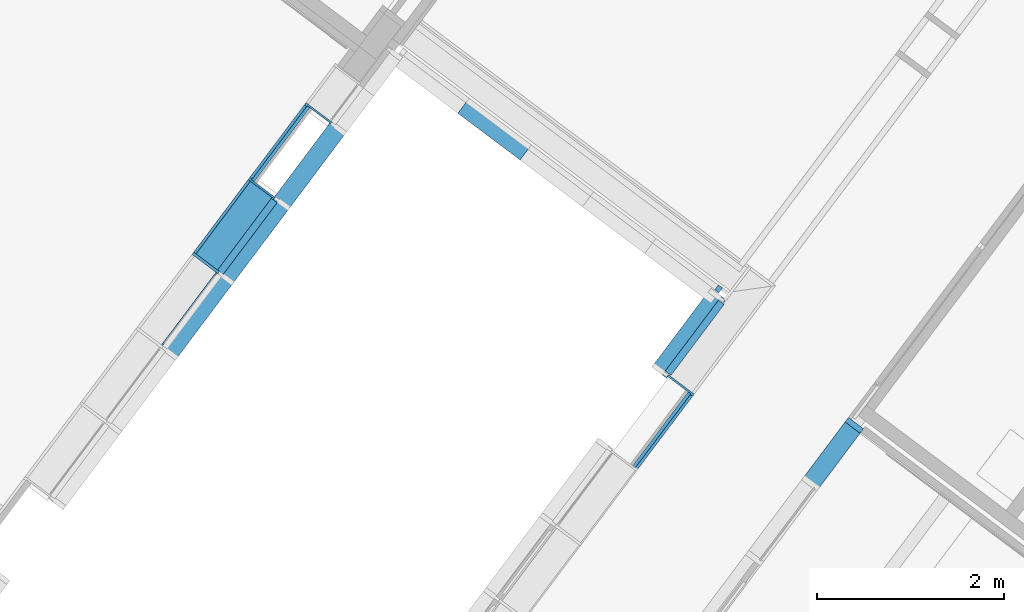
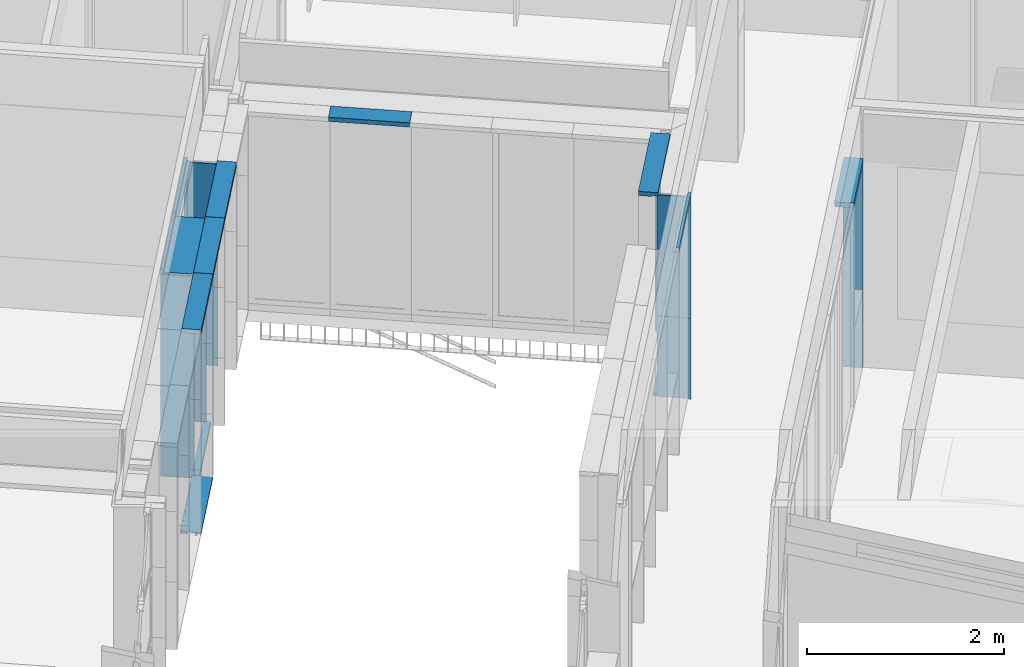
# One storey, part 53 of 243: 19 members, 6 elements without a shape of their own.
"""IFC2X3 building model written with IfcOpenShell, lengths in metres."""

from ifc_helpers import new_model, entity, si_unit, converted_unit, derived_unit, direction, frame, frame_2d, origin, origin_2d_with_axis, place, context, subcontext, project, spatial, polyline, circle_curve, parameter, trimmed, segment, composite_curve, rectangle, outline, extrude, source, transform, mapped, material, type_object, type_shapes, element, aggregate, save


model = new_model("IFC2X3")

# Units and contexts
model_context = context("Model", 3, precision=1e-05, world=origin(), true_north=direction((6.123031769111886e-17, 1.0)))
body_context = subcontext(model_context, "Body", "Model", "MODEL_VIEW")
ifc_project = project(units=[si_unit("LENGTHUNIT", "METRE"), si_unit("AREAUNIT", "SQUARE_METRE"), si_unit("VOLUMEUNIT", "CUBIC_METRE"), converted_unit("PLANEANGLEUNIT", "DEGREE", entity("IfcRatioMeasure", 0.017453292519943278), si_unit("PLANEANGLEUNIT", "RADIAN"), dimensions=[0, 0, 0, 0, 0, 0, 0]), si_unit("MASSUNIT", "GRAM", prefix="KILO"), derived_unit("MASSDENSITYUNIT", [(si_unit("MASSUNIT", "GRAM", prefix="KILO"), 1), (si_unit("LENGTHUNIT", "METRE"), -3)]), derived_unit("IONCONCENTRATIONUNIT", [(si_unit("MASSUNIT", "GRAM", prefix="KILO"), 1), (si_unit("LENGTHUNIT", "METRE"), -3)]), derived_unit("MOMENTOFINERTIAUNIT", [(si_unit("LENGTHUNIT", "METRE"), 4)]), si_unit("TIMEUNIT", "SECOND"), si_unit("FREQUENCYUNIT", "HERTZ"), si_unit("THERMODYNAMICTEMPERATUREUNIT", "DEGREE_CELSIUS"), derived_unit("THERMALTRANSMITTANCEUNIT", [(si_unit("MASSUNIT", "GRAM", prefix="KILO"), 1), (si_unit("THERMODYNAMICTEMPERATUREUNIT", "KELVIN"), -1), (si_unit("TIMEUNIT", "SECOND"), -3)]), derived_unit("THERMALCONDUCTANCEUNIT", [(si_unit("MASSUNIT", "GRAM", prefix="KILO"), 1), (si_unit("THERMODYNAMICTEMPERATUREUNIT", "KELVIN"), -1), (si_unit("TIMEUNIT", "SECOND"), -3), (si_unit("LENGTHUNIT", "METRE"), 1)]), derived_unit("VOLUMETRICFLOWRATEUNIT", [(si_unit("LENGTHUNIT", "METRE"), 3), (si_unit("TIMEUNIT", "SECOND"), -1)]), derived_unit("MASSFLOWRATEUNIT", [(si_unit("MASSUNIT", "GRAM", prefix="KILO"), 1), (si_unit("TIMEUNIT", "SECOND"), -1)]), derived_unit("ROTATIONALFREQUENCYUNIT", [(si_unit("TIMEUNIT", "SECOND"), -1)]), si_unit("ELECTRICCURRENTUNIT", "AMPERE"), si_unit("ELECTRICVOLTAGEUNIT", "VOLT"), si_unit("POWERUNIT", "WATT"), si_unit("FORCEUNIT", "NEWTON", prefix="KILO"), si_unit("ILLUMINANCEUNIT", "LUX"), si_unit("LUMINOUSFLUXUNIT", "LUMEN"), si_unit("LUMINOUSINTENSITYUNIT", "CANDELA"), derived_unit("USERDEFINED", [(si_unit("MASSUNIT", "GRAM", prefix="KILO"), -1), (si_unit("LENGTHUNIT", "METRE"), -2), (si_unit("TIMEUNIT", "SECOND"), 3), (si_unit("LUMINOUSFLUXUNIT", "LUMEN"), 1)]), derived_unit("USERDEFINED", [(si_unit("MASSUNIT", "GRAM", prefix="KILO"), 1), (si_unit("TIMEUNIT", "SECOND"), -3), (si_unit("LENGTHUNIT", "METRE"), 3), (si_unit("ELECTRICCURRENTUNIT", "AMPERE"), -2)]), derived_unit("SOUNDPOWERUNIT", [(si_unit("MASSUNIT", "GRAM", prefix="KILO"), 1), (si_unit("TIMEUNIT", "SECOND"), -3), (si_unit("LENGTHUNIT", "METRE"), 2)]), derived_unit("SOUNDPRESSUREUNIT", [(si_unit("MASSUNIT", "GRAM", prefix="KILO"), 1), (si_unit("LENGTHUNIT", "METRE"), -1), (si_unit("TIMEUNIT", "SECOND"), -2)]), derived_unit("LINEARVELOCITYUNIT", [(si_unit("LENGTHUNIT", "METRE"), 1), (si_unit("TIMEUNIT", "SECOND"), -1)]), si_unit("PRESSUREUNIT", "PASCAL"), derived_unit("USERDEFINED", [(si_unit("MASSUNIT", "GRAM", prefix="KILO"), 1), (si_unit("LENGTHUNIT", "METRE"), -2), (si_unit("TIMEUNIT", "SECOND"), -2)]), derived_unit("LINEARFORCEUNIT", [(si_unit("MASSUNIT", "GRAM", prefix="KILO"), 1), (si_unit("TIMEUNIT", "SECOND"), -2)]), derived_unit("PLANARFORCEUNIT", [(si_unit("MASSUNIT", "GRAM", prefix="KILO"), 1), (si_unit("LENGTHUNIT", "METRE"), -1), (si_unit("TIMEUNIT", "SECOND"), -2)]), derived_unit("SPECIFICHEATCAPACITYUNIT", [(si_unit("THERMODYNAMICTEMPERATUREUNIT", "KELVIN"), -1), (si_unit("LENGTHUNIT", "METRE"), 2), (si_unit("TIMEUNIT", "SECOND"), -2)]), derived_unit("HEATINGVALUEUNIT", [(si_unit("LENGTHUNIT", "METRE"), 2), (si_unit("TIMEUNIT", "SECOND"), -2)]), derived_unit("VAPORPERMEABILITYUNIT", [(si_unit("LENGTHUNIT", "METRE"), -1), (si_unit("TIMEUNIT", "SECOND"), 1)]), derived_unit("DYNAMICVISCOSITYUNIT", [(si_unit("MASSUNIT", "GRAM", prefix="KILO"), 1), (si_unit("TIMEUNIT", "SECOND"), -1), (si_unit("LENGTHUNIT", "METRE"), -1)]), derived_unit("THERMALEXPANSIONCOEFFICIENTUNIT", [(si_unit("THERMODYNAMICTEMPERATUREUNIT", "KELVIN"), -1)]), derived_unit("MODULUSOFELASTICITYUNIT", [(si_unit("MASSUNIT", "GRAM", prefix="KILO"), 1), (si_unit("LENGTHUNIT", "METRE"), -1), (si_unit("TIMEUNIT", "SECOND"), -2)]), derived_unit("ISOTHERMALMOISTURECAPACITYUNIT", [(si_unit("LENGTHUNIT", "METRE"), 3), (si_unit("MASSUNIT", "GRAM", prefix="KILO"), -1)]), derived_unit("MOISTUREDIFFUSIVITYUNIT", [(si_unit("TIMEUNIT", "SECOND"), -1), (si_unit("LENGTHUNIT", "METRE"), 2)])], contexts=[model_context])

# Site, building, storey
site_placement = place(None, frame((0.0, 0.0, 235.0), z_axis=(0.0, 0.0, 1.0), x_axis=(-0.7996477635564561, 0.6004693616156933, 0.0)))
site = spatial("IfcSite", under=ifc_project, at=site_placement, Name="Default", CompositionType="ELEMENT")
building_placement = place(site_placement, origin())
building = spatial("IfcBuilding", under=site, at=building_placement, CompositionType="ELEMENT")
storey_placement = place(building_placement, origin())
storey = spatial("IfcBuildingStorey", under=building, at=storey_placement, Name="P0- Escola", CompositionType="ELEMENT", Elevation=0.0)

# Curtain wall, members
curtain_wall_type_1 = type_object("IfcCurtainWallType", Name="Muro cortina:MC- INT- a1", PredefinedType="NOTDEFINED")
curtain_wall_1_placement = place(storey_placement, origin())
curtain_wall_1 = element("IfcCurtainWall", 1, at=curtain_wall_1_placement, inside=storey, type_object=curtain_wall_type_1, Name="Muro cortina:MC- INT- a1", ObjectType="Muro cortina:MC- INT- a1")
ifc_material_1 = material(Name="_Fusta massisa- T1")
member_type_1 = type_object("IfcMemberType", Name="Montante rectangular:MC- Fusta- 20x6 cm- Neutre", PredefinedType="MULLION", material=ifc_material_1)
shared_shape_1 = source(origin(), body_context, "Body", "SweptSolid", [
    extrude(rectangle(XDim=0.2, YDim=0.060000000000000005, at=frame_2d((-4.85722573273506e-17, -3.469446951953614e-18), x_axis=(1.0, 0.0))), frame((-0.03, -0.060000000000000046, -0.8050000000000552), z_axis=(0.0, 0.0, 1.0), x_axis=(0.0, -1.0, 0.0)), (0.0, 0.0, 1.0), 0.8050000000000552),
])
type_shapes(member_type_1, [shared_shape_1])
member_1_placement = place(curtain_wall_1_placement, frame((47.320147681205, -36.22018997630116, 2.565), z_axis=(0.0, -1.0, 0.0), x_axis=(0.0, 0.0, 1.0)))
member_1 = element("IfcMember", 2, at=member_1_placement, type_object=member_type_1, material=ifc_material_1, Name="Montante rectangular:MC- Fusta- 20x6 cm- Neutre", ObjectType="Montante rectangular:MC- Fusta- 20x6 cm- Neutre", context=body_context, shape_type="MappedRepresentation", body=[
    mapped(shared_shape_1, transform((0.0, 0.0, 0.0), scale=1.0)),
])
member_type_2 = type_object("IfcMemberType", Name="Montante rectangular:MC- Fusta- 20x6 cm- Neutre", PredefinedType="MULLION", material=ifc_material_1)
shared_shape_2 = source(origin(), body_context, "Body", "SweptSolid", [
    extrude(rectangle(XDim=0.2, YDim=0.060000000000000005, at=frame_2d((-4.85722573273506e-17, -3.469446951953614e-18), x_axis=(1.0, 0.0))), frame((-0.03, -0.060000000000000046, -2.5050000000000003), z_axis=(0.0, 0.0, 1.0), x_axis=(0.0, -1.0, 0.0)), (0.0, 0.0, 1.0), 2.5050000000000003),
])
type_shapes(member_type_2, [shared_shape_2])
member_2_placement = place(curtain_wall_1_placement, frame((47.320147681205, -36.22018997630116, 0.0), z_axis=(0.0, 0.0, -1.0), x_axis=(0.0, -1.0, 0.0)))
member_2 = element("IfcMember", 3, at=member_2_placement, type_object=member_type_2, material=ifc_material_1, Name="Montante rectangular:MC- Fusta- 20x6 cm- Neutre", ObjectType="Montante rectangular:MC- Fusta- 20x6 cm- Neutre", context=body_context, shape_type="MappedRepresentation", body=[
    mapped(shared_shape_2, transform((0.0, 0.0, 0.0), scale=1.0)),
])
aggregate(curtain_wall_1, [member_1, member_2])

curtain_wall_type_2 = type_object("IfcCurtainWallType", Name="Muro cortina:MC- EXT- MC2", PredefinedType="NOTDEFINED")
curtain_wall_2_placement = place(storey_placement, origin())
curtain_wall_2 = element("IfcCurtainWall", 4, at=curtain_wall_2_placement, inside=storey, type_object=curtain_wall_type_2, Name="Muro cortina:MC- EXT- MC2", ObjectType="Muro cortina:MC- EXT- MC2")
ifc_material_2 = material(Name="_Alumini- T1- Perfil")
member_type_3 = type_object("IfcMemberType", Name="Montante rectangular:MC- Alu- 140x52,5 cm- Fa patis- Superior", PredefinedType="MULLION", material=ifc_material_2)
shared_shape_3 = source(origin(), body_context, "Body", "SweptSolid", [
    extrude(outline(polyline([(-0.11366666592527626, -0.021249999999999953), (0.026333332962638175, -0.021249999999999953), (0.026333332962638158, -0.010000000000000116), (0.0873333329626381, -0.010000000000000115), (0.0873333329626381, 0.03125000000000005), (-0.11366666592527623, 0.031250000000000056), (-0.11366666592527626, -0.021249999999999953)])), frame((-0.031250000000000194, 0.0273333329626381, -1.0), z_axis=(0.0, 0.0, 1.0), x_axis=(0.0, -1.0, 0.0)), (0.0, 0.0, 1.0), 0.9999999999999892),
])
type_shapes(member_type_3, [shared_shape_3])
member_3_placement = place(curtain_wall_2_placement, frame((53.74514768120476, -33.41519175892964, 2.545), z_axis=(0.0, -1.0, 0.0), x_axis=(0.0, 0.0, 1.0)))
member_3 = element("IfcMember", 5, at=member_3_placement, type_object=member_type_3, material=ifc_material_2, Name="Montante rectangular:MC- Alu- 140x52,5 cm- Fa patis- Superior", ObjectType="Montante rectangular:MC- Alu- 140x52,5 cm- Fa patis- Superior", context=body_context, shape_type="MappedRepresentation", body=[
    mapped(shared_shape_3, transform((0.0, 0.0, 0.0), scale=1.0)),
])
member_4_placement = place(curtain_wall_2_placement, frame((53.745147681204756, -35.41519175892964, 2.545), z_axis=(0.0, -1.0, 0.0), x_axis=(0.0, 0.0, 1.0)))
member_4 = element("IfcMember", 6, at=member_4_placement, type_object=member_type_3, material=ifc_material_2, Name="Montante rectangular:MC- Alu- 140x52,5 cm- Fa patis- Superior", ObjectType="Montante rectangular:MC- Alu- 140x52,5 cm- Fa patis- Superior", context=body_context, shape_type="MappedRepresentation", body=[
    mapped(shared_shape_3, transform((0.0, 0.0, 0.0), scale=1.0)),
])
member_5_placement = place(curtain_wall_2_placement, frame((53.745147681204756, -34.4151917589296, 2.545), z_axis=(0.0, -1.0, 0.0), x_axis=(0.0, 0.0, 1.0)))
member_5 = element("IfcMember", 7, at=member_5_placement, type_object=member_type_3, material=ifc_material_2, Name="Montante rectangular:MC- Alu- 140x52,5 cm- Fa patis- Superior", ObjectType="Montante rectangular:MC- Alu- 140x52,5 cm- Fa patis- Superior", context=body_context, shape_type="MappedRepresentation", body=[
    mapped(shared_shape_3, transform((0.0, 0.0, 0.0), scale=1.0)),
])

curtain_wall_type_3 = type_object("IfcCurtainWallType", Name="Muro cortina:MC- INT- k7- Aules infantil", PredefinedType="NOTDEFINED")
curtain_wall_3_placement = place(storey_placement, origin())
curtain_wall_3 = element("IfcCurtainWall", 8, at=curtain_wall_3_placement, inside=storey, type_object=curtain_wall_type_3, Name="Muro cortina:MC- INT- k7- Aules infantil", ObjectType="Muro cortina:MC- INT- k7- Aules infantil")
member_type_4 = type_object("IfcMemberType", Name="Montante rectangular:MC- Fusta- 35x3 cm- Centre", PredefinedType="MULLION", material=ifc_material_1)
shared_shape_4 = source(origin(), body_context, "Body", "SweptSolid", [
    extrude(rectangle(XDim=0.3450000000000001, YDim=0.030000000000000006, at=frame_2d((0.0, 1.3964523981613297e-16), x_axis=(1.0, 0.0))), frame((0.0, 0.07750000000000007, -2.5049999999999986), z_axis=(0.0, 0.0, 1.0), x_axis=(0.0, -1.0, 0.0)), (0.0, 0.0, 1.0), 2.5049999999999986),
])
type_shapes(member_type_4, [shared_shape_4])
member_6_placement = place(curtain_wall_3_placement, frame((54.045147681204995, -33.41519175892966, 0.0), z_axis=(0.0, 0.0, -1.0), x_axis=(0.0, -1.0, 0.0)))
member_6 = element("IfcMember", 9, at=member_6_placement, type_object=member_type_4, material=ifc_material_1, Name="Montante rectangular:MC- Fusta- 35x3 cm- Centre", ObjectType="Montante rectangular:MC- Fusta- 35x3 cm- Centre", context=body_context, shape_type="MappedRepresentation", body=[
    mapped(shared_shape_4, transform((0.0, 0.0, 0.0), scale=1.0)),
])
member_type_5 = type_object("IfcMemberType", Name="Montante rectangular:MC- Fusta- 35x3 cm- Pati aules- Remat dreta", PredefinedType="MULLION", material=ifc_material_1)
shared_shape_5 = source(origin(), body_context, "Body", "SweptSolid", [
    extrude(outline(polyline([(-0.22, -0.01666666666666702), (0.12500000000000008, -0.01666666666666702), (0.12500000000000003, 0.013333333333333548), (0.09500000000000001, 0.013333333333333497), (0.09499999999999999, 0.003333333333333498), (-0.22, 0.003333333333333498), (-0.22, -0.01666666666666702)])), frame((0.0016666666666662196, 0.03000000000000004, -2.504999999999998), z_axis=(0.0, 0.0, 1.0), x_axis=(0.0, -1.0, 0.0)), (0.0, 0.0, 1.0), 2.5049999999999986),
])
type_shapes(member_type_5, [shared_shape_5])
member_7_placement = place(curtain_wall_3_placement, frame((54.045147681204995, -34.41519175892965, 0.0), z_axis=(0.0, 0.0, -1.0), x_axis=(0.0, -1.0, 0.0)))
member_7 = element("IfcMember", 10, at=member_7_placement, type_object=member_type_5, material=ifc_material_1, Name="Montante rectangular:MC- Fusta- 35x3 cm- Pati aules- Remat dreta", ObjectType="Montante rectangular:MC- Fusta- 35x3 cm- Pati aules- Remat dreta", context=body_context, shape_type="MappedRepresentation", body=[
    mapped(shared_shape_5, transform((0.0, 0.0, 0.0), scale=1.0)),
])
member_type_6 = type_object("IfcMemberType", Name="Montante rectangular:MC- Fusta- 35x3 cm- Pati aules- Remat superior pilar", PredefinedType="MULLION", material=ifc_material_1)
shared_shape_6 = source(origin(), body_context, "Body", "SweptSolid", [
    extrude(outline(polyline([(-0.03333333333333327, -0.02666666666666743), (0.031666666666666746, -0.02666666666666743), (0.031666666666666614, 0.03333333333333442), (0.0016666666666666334, 0.033333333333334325), (0.0016666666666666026, -0.006666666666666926), (-0.03333333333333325, -0.00666666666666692), (-0.03333333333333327, -0.02666666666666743)])), frame((-0.03333333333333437, -0.06333333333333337, -1.0), z_axis=(0.0, 0.0, 1.0), x_axis=(0.0, -1.0, 0.0)), (0.0, 0.0, 1.0), 0.9999999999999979),
])
type_shapes(member_type_6, [shared_shape_6])
member_8_placement = place(curtain_wall_3_placement, frame((54.045147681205, -35.41519175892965, 2.565), z_axis=(0.0, -1.0, 0.0), x_axis=(0.0, 0.0, 1.0)))
member_8 = element("IfcMember", 11, at=member_8_placement, type_object=member_type_6, material=ifc_material_1, Name="Montante rectangular:MC- Fusta- 35x3 cm- Pati aules- Remat superior pilar", ObjectType="Montante rectangular:MC- Fusta- 35x3 cm- Pati aules- Remat superior pilar", context=body_context, shape_type="MappedRepresentation", body=[
    mapped(shared_shape_6, transform((0.0, 0.0, 0.0), scale=1.0)),
])
member_type_7 = type_object("IfcMemberType", Name="Montante rectangular:MC- Fusta- 35x3 cm- Pati aules- Remat esquerra", PredefinedType="MULLION", material=ifc_material_1)
shared_shape_7 = source(origin(), body_context, "Body", "SweptSolid", [
    extrude(outline(polyline([(0.09500000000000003, -0.013333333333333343), (0.12500000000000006, -0.013333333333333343), (0.12500000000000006, 0.01666666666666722), (-0.22000000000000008, 0.016666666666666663), (-0.22000000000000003, -0.0033333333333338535), (0.09499999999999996, -0.003333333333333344), (0.09500000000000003, -0.013333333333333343)])), frame((-0.0016666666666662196, 0.03000000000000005, -2.504999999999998), z_axis=(0.0, 0.0, 1.0), x_axis=(0.0, -1.0, 0.0)), (0.0, 0.0, 1.0), 2.5049999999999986),
])
type_shapes(member_type_7, [shared_shape_7])
member_9_placement = place(curtain_wall_3_placement, frame((54.045147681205, -35.41519175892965, 0.0), z_axis=(0.0, 0.0, -1.0), x_axis=(0.0, -1.0, 0.0)))
member_9 = element("IfcMember", 12, at=member_9_placement, type_object=member_type_7, material=ifc_material_1, Name="Montante rectangular:MC- Fusta- 35x3 cm- Pati aules- Remat esquerra", ObjectType="Montante rectangular:MC- Fusta- 35x3 cm- Pati aules- Remat esquerra", context=body_context, shape_type="MappedRepresentation", body=[
    mapped(shared_shape_7, transform((0.0, 0.0, 0.0), scale=1.0)),
])
member_type_8 = type_object("IfcMemberType", Name="Montante rectangular:MC- Fusta- 35x3 cm- Pati aules- Remat superior", PredefinedType="MULLION", material=ifc_material_1)
shared_shape_8 = source(origin(), body_context, "Body", "SweptSolid", [
    extrude(outline(polyline([(-0.21333333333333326, -0.02666666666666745), (0.1216666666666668, -0.02666666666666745), (0.12166666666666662, 0.03333333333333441), (0.09166666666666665, 0.03333333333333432), (0.09166666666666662, -0.006666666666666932), (-0.2133333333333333, -0.006666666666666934), (-0.21333333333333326, -0.02666666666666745)])), frame((-0.033333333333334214, 0.026666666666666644, -1.0), z_axis=(0.0, 0.0, 1.0), x_axis=(0.0, -1.0, 0.0)), (0.0, 0.0, 1.0), 0.9999999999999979),
])
type_shapes(member_type_8, [shared_shape_8])
member_10_placement = place(curtain_wall_3_placement, frame((54.045147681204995, -34.41519175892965, 2.565), z_axis=(0.0, -1.0, 0.0), x_axis=(0.0, 0.0, 1.0)))
member_10 = element("IfcMember", 13, at=member_10_placement, type_object=member_type_8, material=ifc_material_1, Name="Montante rectangular:MC- Fusta- 35x3 cm- Pati aules- Remat superior", ObjectType="Montante rectangular:MC- Fusta- 35x3 cm- Pati aules- Remat superior", context=body_context, shape_type="MappedRepresentation", body=[
    mapped(shared_shape_8, transform((0.0, 0.0, 0.0), scale=1.0)),
])
aggregate(curtain_wall_3, [member_6, member_10, member_7, member_8, member_9])

curtain_wall_type_4 = type_object("IfcCurtainWallType", Name="Muro cortina:MC- INT- k2", PredefinedType="NOTDEFINED")
curtain_wall_4_placement = place(storey_placement, origin())
curtain_wall_4 = element("IfcCurtainWall", 14, at=curtain_wall_4_placement, inside=storey, type_object=curtain_wall_type_4, Name="Muro cortina:MC- INT- k2", ObjectType="Muro cortina:MC- INT- k2")
member_type_9 = type_object("IfcMemberType", Name="Montante rectangular:MC- Fusta- 35x3 cm- Pati aules- Remat superior pilar", PredefinedType="MULLION", material=ifc_material_1)
shared_shape_9 = source(origin(), body_context, "Body", "SweptSolid", [
    extrude(outline(polyline([(-0.03166666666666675, -0.02666666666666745), (0.03333333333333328, -0.02666666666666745), (0.03333333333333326, -0.00666666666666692), (-0.0016666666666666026, -0.006666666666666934), (-0.0016666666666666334, 0.03333333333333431), (-0.03166666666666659, 0.03333333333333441), (-0.03166666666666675, -0.02666666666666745)])), frame((-0.03333333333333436, 0.06333333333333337, -1.0), z_axis=(0.0, 0.0, 1.0), x_axis=(0.0, -1.0, 0.0)), (0.0, 0.0, 1.0), 0.9999999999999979),
])
type_shapes(member_type_9, [shared_shape_9])
member_11_placement = place(curtain_wall_4_placement, frame((49.04514768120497, -35.41519175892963, 2.565), z_axis=(0.0, -1.0, 0.0), x_axis=(0.0, 0.0, 1.0)))
member_11 = element("IfcMember", 15, at=member_11_placement, type_object=member_type_9, material=ifc_material_1, Name="Montante rectangular:MC- Fusta- 35x3 cm- Pati aules- Remat superior pilar", ObjectType="Montante rectangular:MC- Fusta- 35x3 cm- Pati aules- Remat superior pilar", context=body_context, shape_type="MappedRepresentation", body=[
    mapped(shared_shape_9, transform((0.0, 0.0, 0.0), scale=1.0)),
])
member_type_10 = type_object("IfcMemberType", Name="Montante rectangular:MC- Fusta- 35x3 cm- Pati aules- Remat esquerra", PredefinedType="MULLION", material=ifc_material_1)
shared_shape_10 = source(origin(), body_context, "Body", "SweptSolid", [
    extrude(outline(polyline([(-0.12500000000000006, -0.013333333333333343), (-0.09500000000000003, -0.013333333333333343), (-0.09499999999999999, -0.0033333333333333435), (0.22000000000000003, -0.003333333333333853), (0.22000000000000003, 0.016666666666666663), (-0.12500000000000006, 0.01666666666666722), (-0.12500000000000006, -0.013333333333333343)])), frame((-0.00166666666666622, -0.03000000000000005, -1.0), z_axis=(0.0, 0.0, 1.0), x_axis=(0.0, -1.0, 0.0)), (0.0, 0.0, 1.0), 1.0),
])
type_shapes(member_type_10, [shared_shape_10])
member_12_placement = place(curtain_wall_4_placement, frame((49.04514768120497, -35.41519175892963, 0.0), z_axis=(0.0, 0.0, -1.0), x_axis=(0.0, -1.0, 0.0)))
member_12 = element("IfcMember", 16, at=member_12_placement, type_object=member_type_10, material=ifc_material_1, Name="Montante rectangular:MC- Fusta- 35x3 cm- Pati aules- Remat esquerra", ObjectType="Montante rectangular:MC- Fusta- 35x3 cm- Pati aules- Remat esquerra", context=body_context, shape_type="MappedRepresentation", body=[
    mapped(shared_shape_10, transform((0.0, 0.0, 0.0), scale=1.0)),
])
member_type_11 = type_object("IfcMemberType", Name="Montante rectangular:MC- Fusta- 35x3 cm- Pati aules- Remat esquerra", PredefinedType="MULLION", material=ifc_material_1)
shared_shape_11 = source(origin(), body_context, "Body", "SweptSolid", [
    extrude(outline(polyline([(-0.12500000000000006, -0.013333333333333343), (-0.09500000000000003, -0.013333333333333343), (-0.09499999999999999, -0.0033333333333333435), (0.22000000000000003, -0.003333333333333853), (0.22000000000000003, 0.016666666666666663), (-0.12500000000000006, 0.01666666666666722), (-0.12500000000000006, -0.013333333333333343)])), frame((-0.00166666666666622, -0.03000000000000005, -1.504999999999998), z_axis=(0.0, 0.0, 1.0), x_axis=(0.0, -1.0, 0.0)), (0.0, 0.0, 1.0), 1.504999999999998),
])
type_shapes(member_type_11, [shared_shape_11])
member_13_placement = place(curtain_wall_4_placement, frame((49.04514768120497, -35.41519175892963, 1.0), z_axis=(0.0, 0.0, -1.0), x_axis=(0.0, -1.0, 0.0)))
member_13 = element("IfcMember", 17, at=member_13_placement, type_object=member_type_11, material=ifc_material_1, Name="Montante rectangular:MC- Fusta- 35x3 cm- Pati aules- Remat esquerra", ObjectType="Montante rectangular:MC- Fusta- 35x3 cm- Pati aules- Remat esquerra", context=body_context, shape_type="MappedRepresentation", body=[
    mapped(shared_shape_11, transform((0.0, 0.0, 0.0), scale=1.0)),
])
aggregate(curtain_wall_4, [member_11, member_12, member_13])

# Member
member_type_12 = type_object("IfcMemberType", Name="Montante rectangular:MC- Alu- 140x52,5 cm- Fa patis- inferior", PredefinedType="MULLION", material=ifc_material_2)
shared_shape_12 = source(origin(), body_context, "Body", "SweptSolid", [
    extrude(outline(composite_curve([segment(polyline([(0.1278672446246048, -0.02586710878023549), (0.14416724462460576, -0.025867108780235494)]), True, "CONTINUOUS"), segment(polyline([(0.14416724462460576, -0.025867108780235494), (0.1441672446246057, 0.009132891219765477)]), True, "CONTINUOUS"), segment(polyline([(0.1441672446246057, 0.009132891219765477), (0.06786724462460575, 0.009132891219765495)]), True, "CONTINUOUS"), segment(polyline([(0.06786724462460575, 0.009132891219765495), (0.06786724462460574, -0.021159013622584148)]), True, "CONTINUOUS"), segment(polyline([(0.06786724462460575, -0.02115901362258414), (-0.030132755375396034, -0.012332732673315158)]), True, "CONTINUOUS"), segment(polyline([(-0.03013275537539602, -0.012332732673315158), (-0.030132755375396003, 0.027132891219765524)]), True, "CONTINUOUS"), segment(polyline([(-0.030132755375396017, 0.02713289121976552), (-0.0021327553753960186, 0.02713289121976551)]), True, "CONTINUOUS"), segment(polyline([(-0.0021327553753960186, 0.027132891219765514), (-0.0021327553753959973, 0.029132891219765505)]), True, "CONTINUOUS"), segment(polyline([(-0.0021327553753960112, 0.029132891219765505), (-0.032132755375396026, 0.029132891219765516)]), True, "CONTINUOUS"), segment(polyline([(-0.032132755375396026, 0.029132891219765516), (-0.03213275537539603, -0.012152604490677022)]), True, "CONTINUOUS"), segment(polyline([(-0.03213275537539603, -0.012152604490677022), (-0.0701327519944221, -0.008730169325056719)]), True, "CONTINUOUS"), segment(polyline([(-0.0701327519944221, -0.008730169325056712), (-0.0701327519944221, 0.005766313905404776)]), True, "CONTINUOUS"), segment(trimmed(circle_curve(frame_2d((-0.0696327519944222, 0.0057663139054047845), x_axis=(-1.0, 0.0)), 0.0004999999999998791), [parameter(269.999999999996)], [parameter(0.0)], True, "PARAMETER"), False, "CONTINUOUS"), segment(polyline([(-0.0696327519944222, 0.00626631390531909), (-0.06213275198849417, 0.006266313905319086)]), True, "CONTINUOUS"), segment(polyline([(-0.06213275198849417, 0.006266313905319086), (-0.06213275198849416, 0.008266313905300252)]), True, "CONTINUOUS"), segment(polyline([(-0.06213275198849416, 0.008266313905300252), (-0.07013275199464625, 0.008266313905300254)]), True, "CONTINUOUS"), segment(trimmed(circle_curve(frame_2d((-0.07013275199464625, 0.006266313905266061), x_axis=(0.0, 1.0)), 0.0020000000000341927), [parameter(0.0)], [parameter(90.00000002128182)], True, "PARAMETER"), True, "CONTINUOUS"), segment(polyline([(-0.07213275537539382, 0.006266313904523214), (-0.07213275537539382, -0.008730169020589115)]), True, "CONTINUOUS"), segment(trimmed(circle_curve(frame_2d((-0.07013275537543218, -0.008730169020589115), x_axis=(-1.0, 0.0)), 0.0019999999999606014), [parameter(0.0)], [parameter(84.8535928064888)], True, "PARAMETER"), True, "CONTINUOUS"), segment(polyline([(-0.07031215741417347, -0.01072210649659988), (0.06786724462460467, -0.023167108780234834)]), True, "CONTINUOUS"), segment(polyline([(0.06786724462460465, -0.023167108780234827), (0.12786724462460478, -0.023167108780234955)]), True, "CONTINUOUS"), segment(polyline([(0.12786724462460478, -0.023167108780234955), (0.1278672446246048, -0.02586710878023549)]), True, "CONTINUOUS")], self_intersect=False)), frame((-0.029132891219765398, 0.06786724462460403, -1.0), z_axis=(0.0, 0.0, 1.0), x_axis=(0.0, -1.0, 0.0)), (0.0, 0.0, 1.0), 0.9999999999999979),
])
type_shapes(member_type_12, [shared_shape_12])
member_14_placement = place(curtain_wall_2_placement, frame((53.74514768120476, -32.415191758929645, -0.02), z_axis=(0.0, 1.0, 0.0), x_axis=(0.0, 0.0, -1.0)))
member_14 = element("IfcMember", 18, at=member_14_placement, type_object=member_type_12, material=ifc_material_2, Name="Montante rectangular:MC- Alu- 140x52,5 cm- Fa patis- inferior", ObjectType="Montante rectangular:MC- Alu- 140x52,5 cm- Fa patis- inferior", context=body_context, shape_type="MappedRepresentation", body=[
    mapped(shared_shape_12, transform((0.0, 0.0, 0.0), scale=1.0)),
])

member_type_13 = type_object("IfcMemberType", Name="Montante rectangular:MC- Alu- 140x52,5 cm- Fa patis- inferior porta", PredefinedType="MULLION", material=ifc_material_2)
shared_shape_13 = source(origin(), body_context, "Body", "SweptSolid", [
    extrude(rectangle(XDim=0.07629999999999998, YDim=0.04, at=origin_2d_with_axis()), frame((-0.020000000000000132, -0.0381500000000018, -0.9737499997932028), z_axis=(0.0, 0.0, 1.0), x_axis=(0.0, -1.0, 0.0)), (0.0, 0.0, 1.0), 0.9737499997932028),
])
type_shapes(member_type_13, [shared_shape_13])
member_15_placement = place(curtain_wall_2_placement, frame((53.74514768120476, -33.41519175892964, -0.02), z_axis=(0.0, 1.0, 0.0), x_axis=(0.0, 0.0, -1.0)))
member_15 = element("IfcMember", 19, at=member_15_placement, type_object=member_type_13, material=ifc_material_2, Name="Montante rectangular:MC- Alu- 140x52,5 cm- Fa patis- inferior porta", ObjectType="Montante rectangular:MC- Alu- 140x52,5 cm- Fa patis- inferior porta", context=body_context, shape_type="MappedRepresentation", body=[
    mapped(shared_shape_13, transform((0.0, 0.0, 0.0), scale=1.0)),
])

aggregate(curtain_wall_2, [member_14, member_3, member_15, member_4, member_5])

# Curtain wall, members
curtain_wall_type_5 = type_object("IfcCurtainWallType", Name="Muro cortina:MC- EXT- MC5", PredefinedType="NOTDEFINED")
curtain_wall_5_placement = place(storey_placement, origin())
curtain_wall_5 = element("IfcCurtainWall", 20, at=curtain_wall_5_placement, inside=storey, type_object=curtain_wall_type_5, Name="Muro cortina:MC- EXT- MC5", ObjectType="Muro cortina:MC- EXT- MC5")
member_type_14 = type_object("IfcMemberType", Name="Montante rectangular:MC- Alu- 140x52,5 cm- Fa patis- Superior", PredefinedType="MULLION", material=ifc_material_2)
shared_shape_14 = source(origin(), body_context, "Body", "SweptSolid", [
    extrude(outline(polyline([(-0.026333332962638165, -0.021249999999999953), (0.11366666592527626, -0.021249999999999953), (0.11366666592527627, 0.031250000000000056), (-0.08733333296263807, 0.03125000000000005), (-0.0873333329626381, -0.010000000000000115), (-0.026333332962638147, -0.010000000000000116), (-0.026333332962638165, -0.021249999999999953)])), frame((-0.031250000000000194, -0.02733333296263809, -1.0524481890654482), z_axis=(0.0, 0.0, 1.0), x_axis=(0.0, -1.0, 0.0)), (0.0, 0.0, 1.0), 1.0524481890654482),
])
type_shapes(member_type_14, [shared_shape_14])
member_16_placement = place(curtain_wall_5_placement, frame((49.345147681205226, -36.44138994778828, 2.545), z_axis=(0.0, -1.0, 0.0), x_axis=(0.0, 0.0, 1.0)))
member_16 = element("IfcMember", 21, at=member_16_placement, type_object=member_type_14, material=ifc_material_2, Name="Montante rectangular:MC- Alu- 140x52,5 cm- Fa patis- Superior", ObjectType="Montante rectangular:MC- Alu- 140x52,5 cm- Fa patis- Superior", context=body_context, shape_type="MappedRepresentation", body=[
    mapped(shared_shape_14, transform((0.0, 0.0, 0.0), scale=1.0)),
])
member_type_15 = type_object("IfcMemberType", Name="Montante rectangular:MC- Alu- 140x52,5 cm- Fa patis- inferior porta", PredefinedType="MULLION", material=ifc_material_2)
shared_shape_15 = source(origin(), body_context, "Body", "SweptSolid", [
    extrude(rectangle(XDim=0.07629999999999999, YDim=0.04, at=origin_2d_with_axis()), frame((-0.020000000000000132, 0.03815000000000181, -0.9474481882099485), z_axis=(0.0, 0.0, 1.0), x_axis=(0.0, -1.0, 0.0)), (0.0, 0.0, 1.0), 0.947448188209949),
])
type_shapes(member_type_15, [shared_shape_15])
member_17_placement = place(curtain_wall_5_placement, frame((49.345147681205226, -35.4414417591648, -0.02), z_axis=(0.0, 1.0, 0.0), x_axis=(0.0, 0.0, -1.0)))
member_17 = element("IfcMember", 22, at=member_17_placement, type_object=member_type_15, material=ifc_material_2, Name="Montante rectangular:MC- Alu- 140x52,5 cm- Fa patis- inferior porta", ObjectType="Montante rectangular:MC- Alu- 140x52,5 cm- Fa patis- inferior porta", context=body_context, shape_type="MappedRepresentation", body=[
    mapped(shared_shape_15, transform((0.0, 0.0, 0.0), scale=1.0)),
])
aggregate(curtain_wall_5, [member_16, member_17])

curtain_wall_type_6 = type_object("IfcCurtainWallType", PredefinedType="NOTDEFINED")
curtain_wall_6_placement = place(storey_placement, origin())
curtain_wall_6 = element("IfcCurtainWall", 23, at=curtain_wall_6_placement, inside=storey, type_object=curtain_wall_type_6)
member_type_16 = type_object("IfcMemberType", Name="Montante rectangular:MC- Alu- 65x52,5 cm- Fa Pati- Porta", PredefinedType="MULLION", material=ifc_material_2)
shared_shape_16 = source(origin(), body_context, "Body", "SweptSolid", [
    extrude(rectangle(XDim=0.06500000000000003, YDim=0.05300000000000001, at=frame_2d((-6.938893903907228e-18, 0.0), x_axis=(1.0, 0.0))), frame((-0.026499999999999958, 0.032499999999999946, -2.4274999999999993), z_axis=(0.0, 0.0, 1.0), x_axis=(0.0, -1.0, 0.0)), (0.0, 0.0, 1.0), 2.4274999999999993),
])
type_shapes(member_type_16, [shared_shape_16])
member_18_placement = place(curtain_wall_6_placement, frame((49.39014768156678, -36.455189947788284, 2.4924999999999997), z_axis=(0.0, 0.0, 1.0), x_axis=(-1.0, 0.0, 0.0)))
member_18 = element("IfcMember", 24, at=member_18_placement, type_object=member_type_16, material=ifc_material_2, Name="Montante rectangular:MC- Alu- 65x52,5 cm- Fa Pati- Porta", ObjectType="Montante rectangular:MC- Alu- 65x52,5 cm- Fa Pati- Porta", context=body_context, shape_type="MappedRepresentation", body=[
    mapped(shared_shape_16, transform((0.0, 0.0, 0.0), scale=1.0)),
])
member_type_17 = type_object("IfcMemberType", Name="Montante rectangular:MC- Alu- 140x52,5 cm- Fa patis- Superior", PredefinedType="MULLION", material=ifc_material_2)
shared_shape_17 = source(origin(), body_context, "Body", "SweptSolid", [
    extrude(outline(polyline([(-0.026333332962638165, -0.021249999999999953), (0.11366666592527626, -0.021249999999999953), (0.11366666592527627, 0.031250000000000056), (-0.08733333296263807, 0.03125000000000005), (-0.0873333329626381, -0.010000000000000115), (-0.026333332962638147, -0.010000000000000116), (-0.026333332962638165, -0.021249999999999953)])), frame((-0.031250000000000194, -0.02733333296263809, -0.8327999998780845), z_axis=(0.0, 0.0, 1.0), x_axis=(0.0, -1.0, 0.0)), (0.0, 0.0, 1.0), 0.8327999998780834),
])
type_shapes(member_type_17, [shared_shape_17])
member_19_placement = place(curtain_wall_6_placement, frame((52.7743476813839, -36.45518994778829, 2.545), z_axis=(1.0, 0.0, 0.0), x_axis=(0.0, 0.0, 1.0)))
member_19 = element("IfcMember", 25, at=member_19_placement, type_object=member_type_17, material=ifc_material_2, Name="Montante rectangular:MC- Alu- 140x52,5 cm- Fa patis- Superior", ObjectType="Montante rectangular:MC- Alu- 140x52,5 cm- Fa patis- Superior", context=body_context, shape_type="MappedRepresentation", body=[
    mapped(shared_shape_17, transform((0.0, 0.0, 0.0), scale=1.0)),
])
aggregate(curtain_wall_6, [member_18, member_19])

save(model, "model.ifc")
